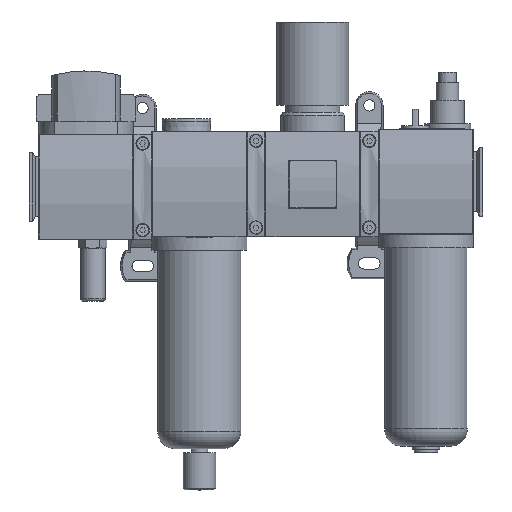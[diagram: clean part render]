
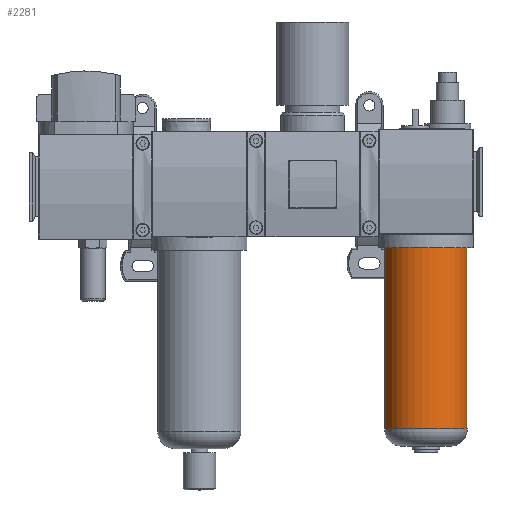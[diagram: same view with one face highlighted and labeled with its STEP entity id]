
A CAD part, top view. The second image highlights one B-rep face of the part: STEP entity #2281.
In plain terms, the highlighted cylindrical face has radius 24.25 mm (diameter 48.5 mm), a full revolution.
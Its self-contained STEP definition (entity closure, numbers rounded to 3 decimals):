
#2281 = ADVANCED_FACE( '', ( #4763, #4764 ), #4765, .T. );
#4763 = FACE_OUTER_BOUND( '', #7625, .T. );
#4764 = FACE_OUTER_BOUND( '', #7626, .T. );
#4765 = CYLINDRICAL_SURFACE( '', #7627, 24.25 );
#7625 = EDGE_LOOP( '', ( #12956 ) );
#7626 = EDGE_LOOP( '', ( #12957 ) );
#7627 = AXIS2_PLACEMENT_3D( '', #12958, #12959, #12960 );
#12956 = ORIENTED_EDGE( '', *, *, #18348, .F. );
#12957 = ORIENTED_EDGE( '', *, *, #17290, .T. );
#12958 = CARTESIAN_POINT( '', ( 0., -115.5, 0. ) );
#12959 = DIRECTION( '', ( 0., 1., 0. ) );
#12960 = DIRECTION( '', ( 0., 0., -1. ) );
#17290 = EDGE_CURVE( '', #20815, #20815, #20816, .T. );
#18348 = EDGE_CURVE( '', #22358, #22358, #22359, .T. );
#20815 = VERTEX_POINT( '', #25831 );
#20816 = CIRCLE( '', #25832, 24.25 );
#22358 = VERTEX_POINT( '', #28154 );
#22359 = CIRCLE( '', #28155, 24.25 );
#25831 = CARTESIAN_POINT( '', ( 0., 0., -24.25 ) );
#25832 = AXIS2_PLACEMENT_3D( '', #30691, #30692, #30693 );
#28154 = CARTESIAN_POINT( '', ( 0., -105.5, -24.25 ) );
#28155 = AXIS2_PLACEMENT_3D( '', #31698, #31699, #31700 );
#30691 = CARTESIAN_POINT( '', ( 0., 0., 0. ) );
#30692 = DIRECTION( '', ( 0., -1., 0. ) );
#30693 = DIRECTION( '', ( 0., 0., -1. ) );
#31698 = CARTESIAN_POINT( '', ( 0., -105.5, 0. ) );
#31699 = DIRECTION( '', ( 0., -1., 0. ) );
#31700 = DIRECTION( '', ( 0., 0., -1. ) );
